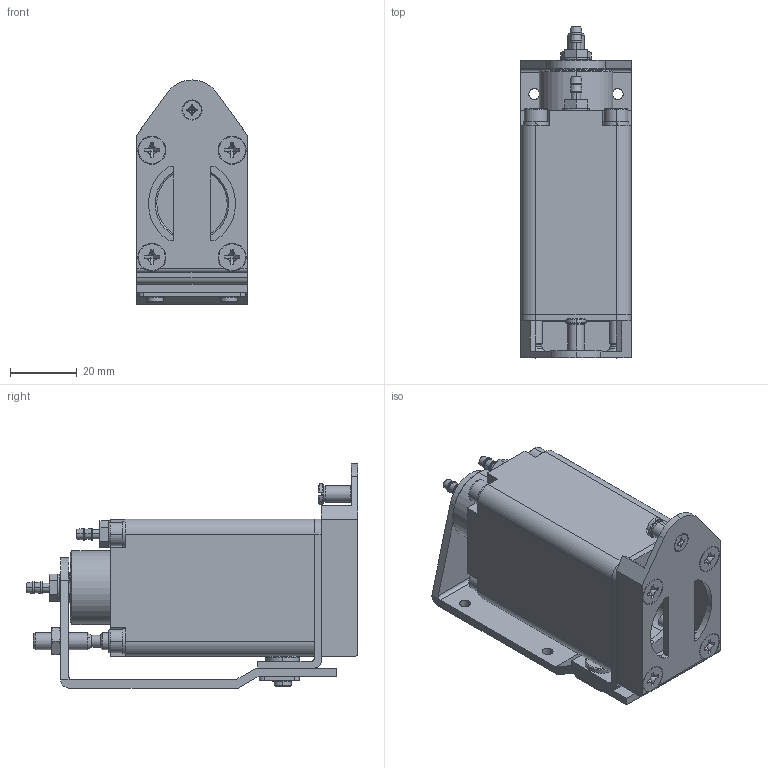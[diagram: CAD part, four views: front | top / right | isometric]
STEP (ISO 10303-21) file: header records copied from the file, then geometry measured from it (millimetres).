
FILE_DESCRIPTION (( 'STEP AP214' ), '1' );
FILE_NAME ('GT-NY15R.STEP', '2019-11-13T05:56:35', ( '微软用户' ), ( '微软中国' ), 'SwSTEP 2.0', 'SolidWorks 2016', '' );
FILE_SCHEMA (( 'AUTOMOTIVE_DESIGN' ));
Length unit declared in the file: millimetre
Products named in the file (1): GT-NY15R
Bounding box: 33 x 99.2 x 67 mm (x, y, z)
Surface area: 35914.4 mm2 (no closed solid volume)
Topology: 0 solids, 111 shells, 859 faces, 2342 edges, 1647 vertices
Faces by surface type: plane 393, cylinder 300, bspline 98, cone 52, torus 16
Entity records: 39422 total; most frequent: CARTESIAN_POINT 13444, ORIENTED_EDGE 4216, DIRECTION 4122, EDGE_CURVE 2332, VERTEX_POINT 1647, AXIS2_PLACEMENT_3D 1566, LINE 990, VECTOR 990
